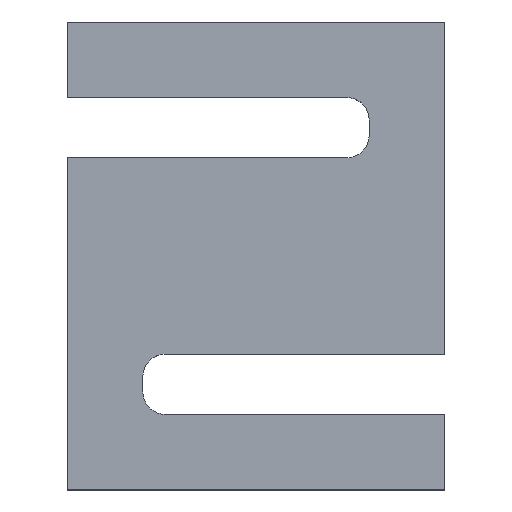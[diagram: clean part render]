
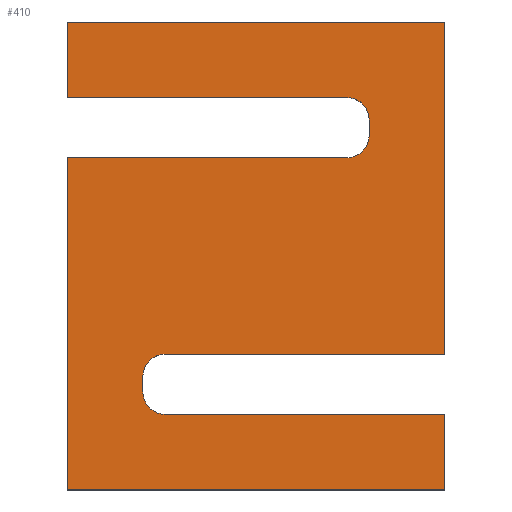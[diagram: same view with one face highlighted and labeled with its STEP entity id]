
A CAD part, top view. The second image highlights one B-rep face of the part: STEP entity #410.
In plain terms, the highlighted planar face has unit normal (0, 0, 1).
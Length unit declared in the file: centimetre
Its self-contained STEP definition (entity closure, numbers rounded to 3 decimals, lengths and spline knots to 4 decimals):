
#152=VERTEX_POINT('',#1638);
#153=VERTEX_POINT('',#1639);
#156=VERTEX_POINT('',#1647);
#158=VERTEX_POINT('',#1653);
#160=VERTEX_POINT('',#1659);
#162=VERTEX_POINT('',#1665);
#164=VERTEX_POINT('',#1671);
#166=VERTEX_POINT('',#1677);
#168=VERTEX_POINT('',#1683);
#170=VERTEX_POINT('',#1689);
#172=VERTEX_POINT('',#1695);
#174=VERTEX_POINT('',#1701);
#176=VERTEX_POINT('',#1707);
#178=VERTEX_POINT('',#1713);
#180=VERTEX_POINT('',#1719);
#182=VERTEX_POINT('',#1725);
#188=EDGE_CURVE('',#152,#153,#757,.T.);
#192=EDGE_CURVE('',#153,#156,#761,.T.);
#195=EDGE_CURVE('',#156,#158,#476,.T.);
#198=EDGE_CURVE('',#158,#160,#765,.T.);
#201=EDGE_CURVE('',#160,#162,#478,.T.);
#204=EDGE_CURVE('',#162,#164,#769,.T.);
#207=EDGE_CURVE('',#164,#166,#772,.T.);
#210=EDGE_CURVE('',#166,#168,#775,.T.);
#213=EDGE_CURVE('',#168,#170,#778,.T.);
#216=EDGE_CURVE('',#170,#172,#781,.T.);
#219=EDGE_CURVE('',#172,#174,#480,.T.);
#222=EDGE_CURVE('',#174,#176,#785,.T.);
#225=EDGE_CURVE('',#176,#178,#482,.T.);
#228=EDGE_CURVE('',#178,#180,#789,.T.);
#231=EDGE_CURVE('',#180,#182,#792,.T.);
#234=EDGE_CURVE('',#182,#152,#795,.T.);
#308=ORIENTED_EDGE('',*,*,#188,.F.);
#309=ORIENTED_EDGE('',*,*,#234,.F.);
#310=ORIENTED_EDGE('',*,*,#231,.F.);
#311=ORIENTED_EDGE('',*,*,#228,.F.);
#312=ORIENTED_EDGE('',*,*,#225,.F.);
#313=ORIENTED_EDGE('',*,*,#222,.F.);
#314=ORIENTED_EDGE('',*,*,#219,.F.);
#315=ORIENTED_EDGE('',*,*,#216,.F.);
#316=ORIENTED_EDGE('',*,*,#213,.F.);
#317=ORIENTED_EDGE('',*,*,#210,.F.);
#318=ORIENTED_EDGE('',*,*,#207,.F.);
#319=ORIENTED_EDGE('',*,*,#204,.F.);
#320=ORIENTED_EDGE('',*,*,#201,.F.);
#321=ORIENTED_EDGE('',*,*,#198,.F.);
#322=ORIENTED_EDGE('',*,*,#195,.F.);
#323=ORIENTED_EDGE('',*,*,#192,.F.);
#364=EDGE_LOOP('',(#308,#309,#310,#311,#312,#313,#314,#315,#316,#317,#318,
#319,#320,#321,#322,#323));
#390=FACE_BOUND('',#364,.T.);
#410=ADVANCED_FACE('',(#390),#1265,.T.);
#476=CIRCLE('',#1121,0.3);
#478=CIRCLE('',#1125,0.3);
#480=CIRCLE('',#1133,0.3);
#482=CIRCLE('',#1137,0.3);
#757=LINE('',#1637,#1207);
#761=LINE('',#1646,#1211);
#765=LINE('',#1658,#1215);
#769=LINE('',#1670,#1219);
#772=LINE('',#1676,#1222);
#775=LINE('',#1682,#1225);
#778=LINE('',#1688,#1228);
#781=LINE('',#1694,#1231);
#785=LINE('',#1706,#1235);
#789=LINE('',#1718,#1239);
#792=LINE('',#1724,#1242);
#795=LINE('',#1730,#1245);
#1121=AXIS2_PLACEMENT_3D('',#1652,#1422,#1423);
#1125=AXIS2_PLACEMENT_3D('',#1664,#1433,#1434);
#1133=AXIS2_PLACEMENT_3D('',#1700,#1460,#1461);
#1137=AXIS2_PLACEMENT_3D('',#1712,#1471,#1472);
#1142=AXIS2_PLACEMENT_3D('',#1732,#1487,$);
#1207=VECTOR('',#1412,1.);
#1211=VECTOR('',#1417,1.);
#1215=VECTOR('',#1428,1.);
#1219=VECTOR('',#1439,1.);
#1222=VECTOR('',#1443,1.);
#1225=VECTOR('',#1447,1.);
#1228=VECTOR('',#1451,1.);
#1231=VECTOR('',#1455,1.);
#1235=VECTOR('',#1466,1.);
#1239=VECTOR('',#1477,1.);
#1242=VECTOR('',#1481,1.);
#1245=VECTOR('',#1485,1.);
#1265=PLANE('',#1142);
#1412=DIRECTION('',(0.,-1.,0.));
#1417=DIRECTION('',(-1.,0.,0.));
#1422=DIRECTION('',(0.,0.,1.));
#1423=DIRECTION('',(0.3,0.,0.));
#1428=DIRECTION('',(0.,-1.,0.));
#1433=DIRECTION('',(0.,0.,1.));
#1434=DIRECTION('',(0.3,0.,0.));
#1439=DIRECTION('',(1.,0.,0.));
#1443=DIRECTION('',(0.,-1.,0.));
#1447=DIRECTION('',(-1.,0.,0.));
#1451=DIRECTION('',(0.,1.,0.));
#1455=DIRECTION('',(1.,0.,0.));
#1460=DIRECTION('',(0.,0.,1.));
#1461=DIRECTION('',(0.3,0.,0.));
#1466=DIRECTION('',(0.,1.,0.));
#1471=DIRECTION('',(0.,0.,1.));
#1472=DIRECTION('',(0.3,0.,0.));
#1477=DIRECTION('',(-1.,0.,0.));
#1481=DIRECTION('',(0.,1.,0.));
#1485=DIRECTION('',(1.,0.,0.));
#1487=DIRECTION('',(0.,0.,1.));
#1637=CARTESIAN_POINT('',(0.,1.8,1.25));
#1638=CARTESIAN_POINT('',(0.,6.2,1.25));
#1639=CARTESIAN_POINT('',(0.,1.8,1.25));
#1646=CARTESIAN_POINT('',(-3.7,1.8,1.25));
#1647=CARTESIAN_POINT('',(-3.7,1.8,1.25));
#1652=CARTESIAN_POINT('',(-3.7,1.5,1.25));
#1653=CARTESIAN_POINT('',(-4.,1.5,1.25));
#1658=CARTESIAN_POINT('',(-4.,1.3,1.25));
#1659=CARTESIAN_POINT('',(-4.,1.3,1.25));
#1664=CARTESIAN_POINT('',(-3.7,1.3,1.25));
#1665=CARTESIAN_POINT('',(-3.7,1.,1.25));
#1670=CARTESIAN_POINT('',(0.,1.,1.25));
#1671=CARTESIAN_POINT('',(0.,1.,1.25));
#1676=CARTESIAN_POINT('',(0.,0.,1.25));
#1677=CARTESIAN_POINT('',(0.,0.,1.25));
#1682=CARTESIAN_POINT('',(-5.,0.,1.25));
#1683=CARTESIAN_POINT('',(-5.,0.,1.25));
#1688=CARTESIAN_POINT('',(-5.,4.4,1.25));
#1689=CARTESIAN_POINT('',(-5.,4.4,1.25));
#1694=CARTESIAN_POINT('',(-1.3,4.4,1.25));
#1695=CARTESIAN_POINT('',(-1.3,4.4,1.25));
#1700=CARTESIAN_POINT('',(-1.3,4.7,1.25));
#1701=CARTESIAN_POINT('',(-1.,4.7,1.25));
#1706=CARTESIAN_POINT('',(-1.,4.9,1.25));
#1707=CARTESIAN_POINT('',(-1.,4.9,1.25));
#1712=CARTESIAN_POINT('',(-1.3,4.9,1.25));
#1713=CARTESIAN_POINT('',(-1.3,5.2,1.25));
#1718=CARTESIAN_POINT('',(-5.,5.2,1.25));
#1719=CARTESIAN_POINT('',(-5.,5.2,1.25));
#1724=CARTESIAN_POINT('',(-5.,6.2,1.25));
#1725=CARTESIAN_POINT('',(-5.,6.2,1.25));
#1730=CARTESIAN_POINT('',(0.,6.2,1.25));
#1732=CARTESIAN_POINT('',(-2.5,3.1,1.25));
